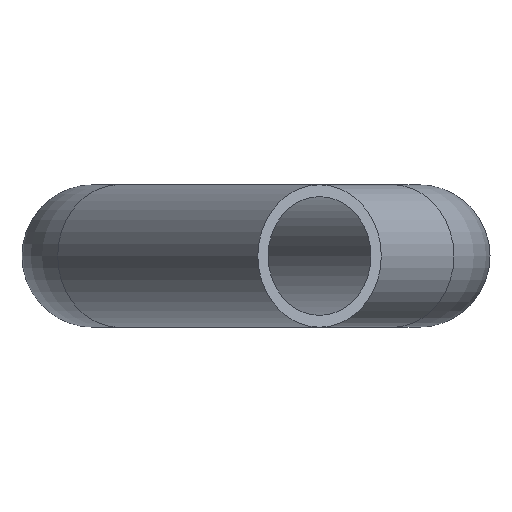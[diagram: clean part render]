
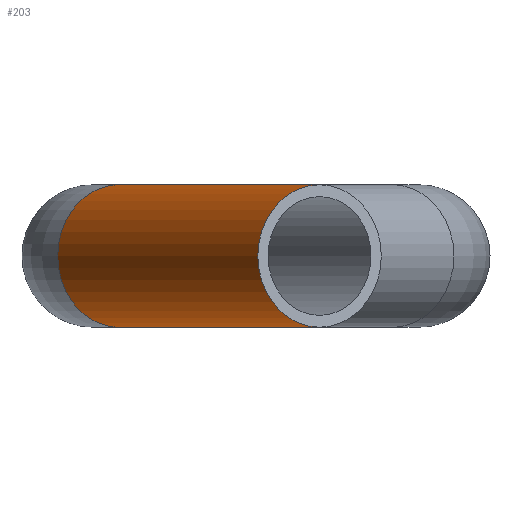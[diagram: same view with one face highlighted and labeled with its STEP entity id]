
A CAD part, left-side view. The second image highlights one B-rep face of the part: STEP entity #203.
In plain terms, the highlighted cylindrical face has radius 9 mm (diameter 18 mm), a full revolution.
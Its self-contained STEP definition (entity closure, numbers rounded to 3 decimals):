
#176=CARTESIAN_POINT('',(-150.5,37.816,0.0));
#177=DIRECTION('',(-0.866,-0.5,0.0));
#178=DIRECTION('',(0.5,-0.866,0.0));
#179=AXIS2_PLACEMENT_3D('',#176,#177,#178);
#180=CYLINDRICAL_SURFACE('',#179,9.0);
#181=CARTESIAN_POINT('',(-198.792,20.328,0.));
#182=VERTEX_POINT('',#181);
#183=CARTESIAN_POINT('',(-194.292,12.533,0.0));
#184=DIRECTION('',(0.866,0.5,0.0));
#185=DIRECTION('',(0.5,-0.866,0.0));
#186=AXIS2_PLACEMENT_3D('',#183,#184,#185);
#187=CIRCLE('',#186,9.0);
#188=EDGE_CURVE('',#182,#182,#187,.T.);
#189=ORIENTED_EDGE('',*,*,#188,.T.);
#190=EDGE_LOOP('',(#189));
#191=FACE_OUTER_BOUND('',#190,.T.);
#192=CARTESIAN_POINT('',(-155.,45.611,0.));
#193=VERTEX_POINT('',#192);
#194=CARTESIAN_POINT('',(-150.5,37.816,0.0));
#195=DIRECTION('',(0.866,0.5,0.0));
#196=DIRECTION('',(0.5,-0.866,0.0));
#197=AXIS2_PLACEMENT_3D('',#194,#195,#196);
#198=CIRCLE('',#197,9.0);
#199=EDGE_CURVE('',#193,#193,#198,.T.);
#200=ORIENTED_EDGE('',*,*,#199,.F.);
#201=EDGE_LOOP('',(#200));
#202=FACE_BOUND('',#201,.T.);
#203=ADVANCED_FACE('',(#191,#202),#180,.T.);
